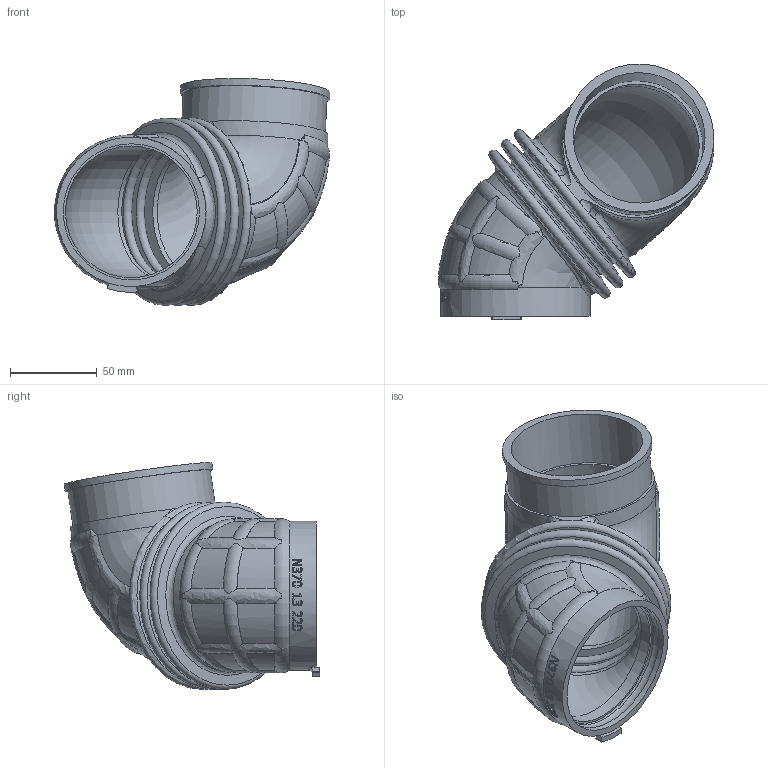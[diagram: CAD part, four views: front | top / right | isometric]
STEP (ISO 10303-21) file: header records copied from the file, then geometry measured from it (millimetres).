
FILE_DESCRIPTION(/* description */ (''),/* implementation_level */ '2;1');
FILE_NAME(/* name */ 'C:\Users\nick9\Desktop\Current Projects\COY PART2.stp',/* time_stamp */ '2024-10-03T20:47:55-05:00',/* author */ ('nick9'),/* organization */ (''),/* preprocessor_version */ 'ST-DEVELOPER v18.1',/* originating_system */ 'Autodesk Inventor 2021',/* authorisation */ '');
FILE_SCHEMA (('AUTOMOTIVE_DESIGN { 1 0 10303 214 3 1 1 }'));
Length unit declared in the file: inch
Products named in the file (1): COY PART2
Bounding box: 158.83 x 147.31 x 130.83 mm (x, y, z)
Volume: 257785.3 mm3; surface area: 146740 mm2
Topology: 1 solids, 1 shells, 355 faces, 1146 edges, 778 vertices
Faces by surface type: bspline 189, plane 103, cylinder 28, torus 22, cone 13
Full cylindrical faces by diameter (mm): 75.946 x4, 78.486 x2, 82.931 x1, 86.106 x2
Entity records: 19978 total; most frequent: CARTESIAN_POINT 11198, ORIENTED_EDGE 2284, DIRECTION 1207, EDGE_CURVE 1142, VERTEX_POINT 778, B_SPLINE_CURVE_WITH_KNOTS 579, AXIS2_PLACEMENT_3D 477, EDGE_LOOP 392
